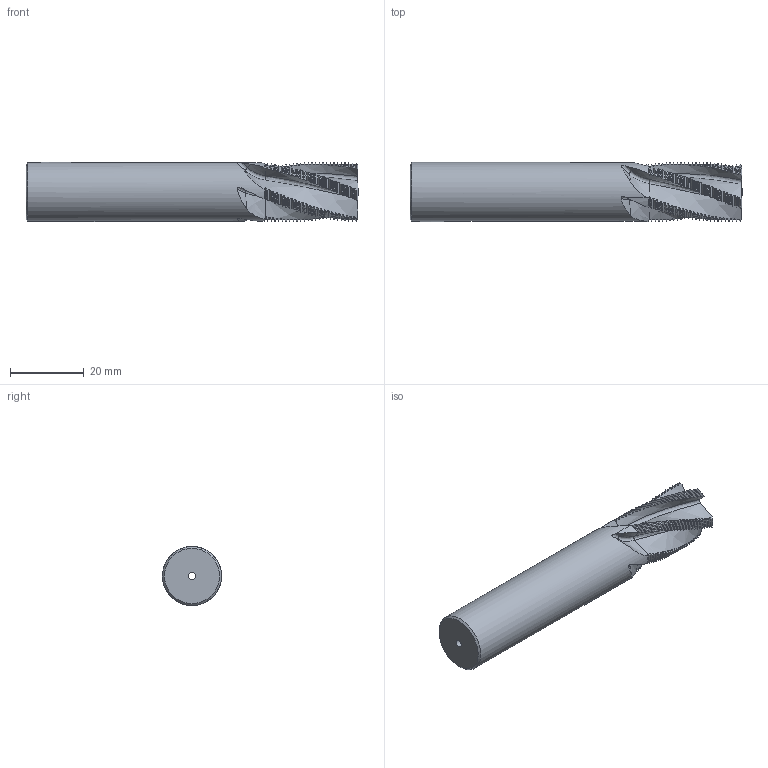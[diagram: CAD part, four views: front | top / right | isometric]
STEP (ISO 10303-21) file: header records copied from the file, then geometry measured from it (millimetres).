
FILE_DESCRIPTION(/* description */ (''),/* implementation_level */ '2;1');
FILE_NAME(/* name */ '00035620-STEP',/* time_stamp */ '2024-02-13T13:14:42+01:00',/* author */ (''),/* organization */ (''),/* preprocessor_version */ 'ST-DEVELOPER v16.5',/* originating_system */ 'HiCAD 2017 2201.0 Build 268',/* authorisation */ '');
FILE_SCHEMA (('AUTOMOTIVE_DESIGN { 1 0 10303 214 1 1 1 1 }'));
Products named in the file (2): Root; ROTATIONSTEIL_1
Assembly tree (1 placements, depth 2):
  Root
    ROTATIONSTEIL_1
Bounding box: 90 x 16 x 16 mm (x, y, z)
Volume: 15123.9 mm3; surface area: 6032.7 mm2
Topology: 1 solids, 1 shells, 806 faces, 2395 edges, 1591 vertices
Faces by surface type: cone 256, cylinder 253, torus 250, bspline 45, plane 2
Full cylindrical faces by diameter (mm): 2 x1, 16 x1
Entity records: 81824 total; most frequent: CARTESIAN_POINT 40657, PRESENTATION_STYLE_ASSIGNMENT 4773, COLOUR_RGB 4773, DRAUGHTING_PRE_DEFINED_CURVE_FONT 4772, CURVE_STYLE 4772, OVER_RIDING_STYLED_ITEM 4772, ORIENTED_EDGE 4772, DIRECTION 3052
